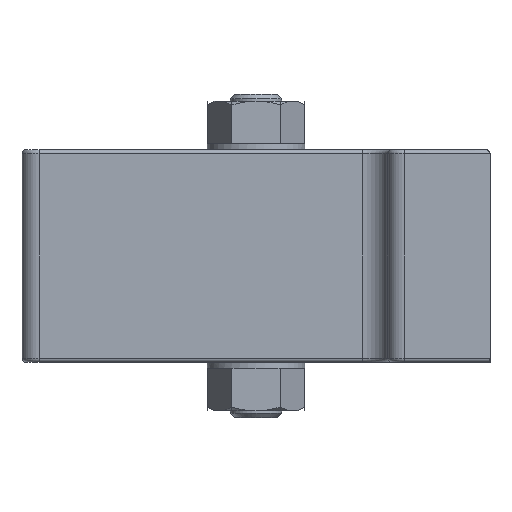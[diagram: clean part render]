
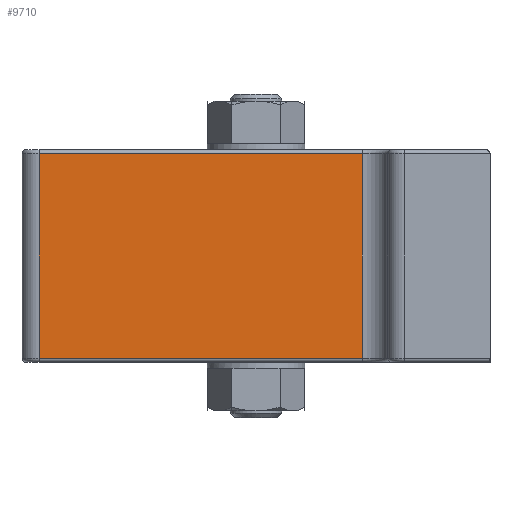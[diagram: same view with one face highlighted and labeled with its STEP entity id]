
A CAD part, left-side view. The second image highlights one B-rep face of the part: STEP entity #9710.
In plain terms, the highlighted planar face has unit normal (-1, 0, 0).
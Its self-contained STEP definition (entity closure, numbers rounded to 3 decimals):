
#9391=CARTESIAN_POINT('',(-27.5,25.5,-12.0));
#9392=VERTEX_POINT('',#9391);
#9457=CARTESIAN_POINT('',(-27.5,-12.5,-12.0));
#9458=VERTEX_POINT('',#9457);
#9466=CARTESIAN_POINT('',(-27.5,-12.5,-12.0));
#9467=DIRECTION('',(0.0,1.0,0.0));
#9468=VECTOR('',#9467,38.);
#9469=LINE('',#9466,#9468);
#9470=EDGE_CURVE('',#9458,#9392,#9469,.T.);
#9680=CARTESIAN_POINT('',(-27.5,-12.5,0.0));
#9681=DIRECTION('',(-1.0,0.0,0.0));
#9682=DIRECTION('',(0.0,0.0,1.0));
#9683=AXIS2_PLACEMENT_3D('',#9680,#9681,#9682);
#9684=PLANE('',#9683);
#9685=ORIENTED_EDGE('',*,*,#9470,.F.);
#9686=CARTESIAN_POINT('',(-27.5,-12.5,12.0));
#9687=VERTEX_POINT('',#9686);
#9688=CARTESIAN_POINT('',(-27.5,-12.5,12.0));
#9689=DIRECTION('',(0.0,0.0,-1.0));
#9690=VECTOR('',#9689,24.0);
#9691=LINE('',#9688,#9690);
#9692=EDGE_CURVE('',#9687,#9458,#9691,.T.);
#9693=ORIENTED_EDGE('',*,*,#9692,.F.);
#9694=CARTESIAN_POINT('',(-27.5,25.5,12.0));
#9695=VERTEX_POINT('',#9694);
#9696=CARTESIAN_POINT('',(-27.5,25.5,12.0));
#9697=DIRECTION('',(0.0,-1.0,0.0));
#9698=VECTOR('',#9697,38.);
#9699=LINE('',#9696,#9698);
#9700=EDGE_CURVE('',#9695,#9687,#9699,.T.);
#9701=ORIENTED_EDGE('',*,*,#9700,.F.);
#9702=CARTESIAN_POINT('',(-27.5,25.5,12.0));
#9703=DIRECTION('',(0.0,0.0,-1.0));
#9704=VECTOR('',#9703,24.0);
#9705=LINE('',#9702,#9704);
#9706=EDGE_CURVE('',#9695,#9392,#9705,.T.);
#9707=ORIENTED_EDGE('',*,*,#9706,.T.);
#9708=EDGE_LOOP('',(#9685,#9693,#9701,#9707));
#9709=FACE_OUTER_BOUND('',#9708,.T.);
#9710=ADVANCED_FACE('',(#9709),#9684,.T.);
